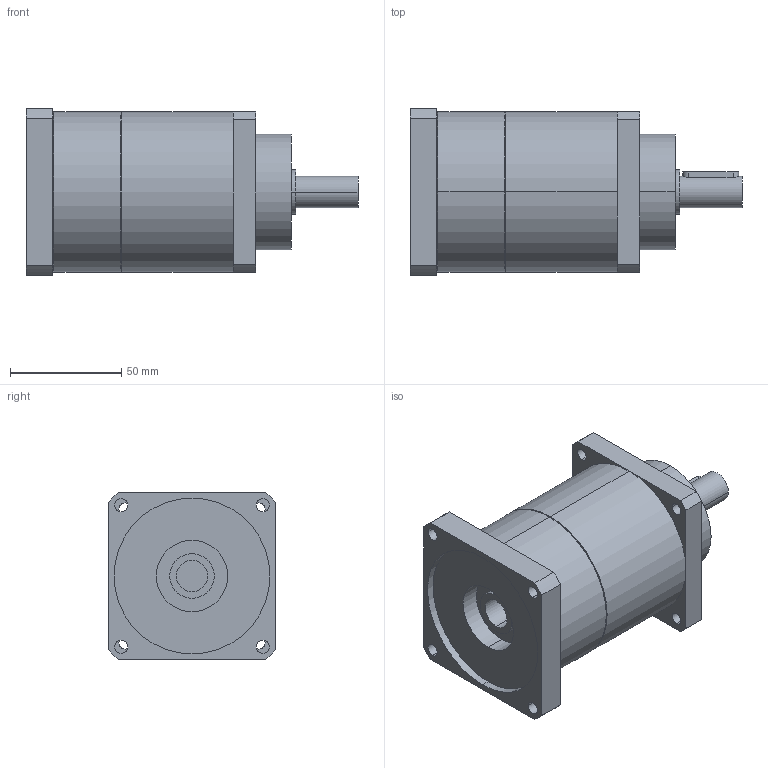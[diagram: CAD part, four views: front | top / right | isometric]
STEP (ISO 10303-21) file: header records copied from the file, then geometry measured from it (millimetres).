
FILE_DESCRIPTION(('CoCreate Modeling STEP Export'),'2;1');
FILE_NAME('GPT75_ig-9-12-16-20-25-28-35-40-50-70-100_14_B5T_14_P24.stp','2014-08-27T13:38:07',(''),(''),'CoCreate Modeling STEP processor for AP214 (Solid Model)','CoCreate Modeling 16.00C 25-Feb-2009 (C) Parametric Technology GmbH','');
FILE_SCHEMA(('AUTOMOTIVE_DESIGN { 1 0 10303 214 1 1 1 1 }'));
Length unit declared in the file: millimetre
Products named in the file (2): GPT75_ig-9-12-16-20-25-28-35-40-50-70-100_14_B5T_14_P24
Assembly tree (1 placements, depth 2):
  GPT75_ig-9-12-16-20-25-28-35-40-50-70-100_14_B5T_14_P24
    GPT75_ig-9-12-16-20-25-28-35-40-50-70-100_14_B5T_14_P24
Bounding box: 149 x 75 x 75 mm (x, y, z)
Volume: 460976.4 mm3; surface area: 46970.4 mm2
Topology: 1 solids, 1 shells, 77 faces, 191 edges, 126 vertices
Faces by surface type: cylinder 46, plane 27, cone 4
Entity records: 2469 total; most frequent: CARTESIAN_POINT 716, ORIENTED_EDGE 382, DIRECTION 320, EDGE_CURVE 191, VERTEX_POINT 126, AXIS2_PLACEMENT_3D 118, EDGE_LOOP 103, VECTOR 84
